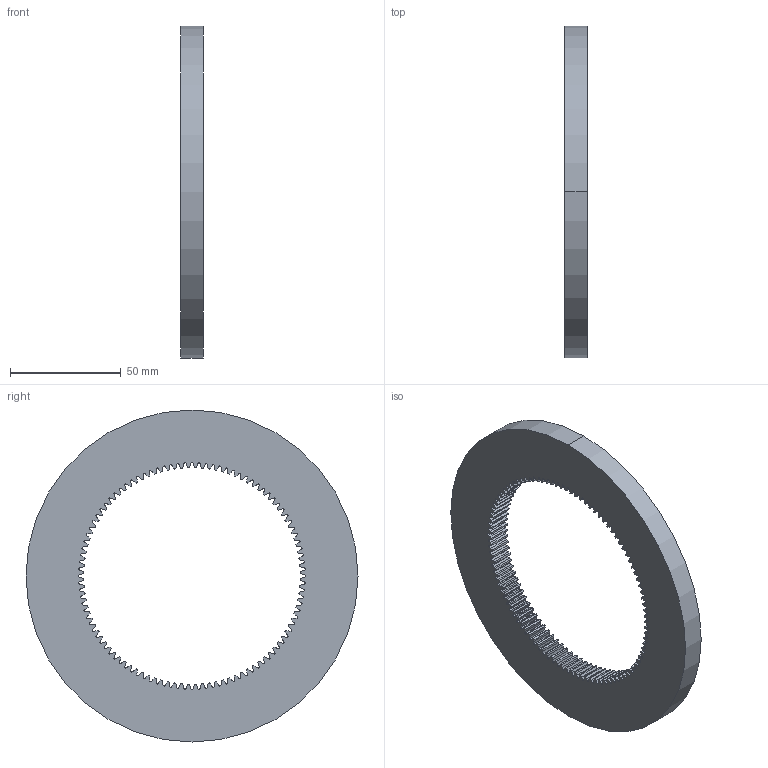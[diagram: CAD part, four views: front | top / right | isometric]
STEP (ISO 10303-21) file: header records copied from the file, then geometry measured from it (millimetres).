
FILE_DESCRIPTION((''),'2;1');
FILE_NAME('50340','2012-09-20T',('carefree'),(''),'PRO/ENGINEER BY PARAMETRIC TECHNOLOGY CORPORATION, 2005030','PRO/ENGINEER BY PARAMETRIC TECHNOLOGY CORPORATION, 2005030','');
FILE_SCHEMA(('CONFIG_CONTROL_DESIGN'));
Length unit declared in the file: millimetre
Products named in the file (1): 50340
Bounding box: 10 x 150 x 150 mm (x, y, z)
Volume: 97916.2 mm3; surface area: 30538.8 mm2
Topology: 1 solids, 1 shells, 604 faces, 1806 edges, 1204 vertices
Faces by surface type: plane 202, cylinder 202, extrusion 200
Entity records: 24236 total; most frequent: CARTESIAN_POINT 8314, ORIENTED_EDGE 3612, DIRECTION 2818, EDGE_CURVE 1806, VERTEX_POINT 1204, VECTOR 1202, LINE 1002, AXIS2_PLACEMENT_3D 808
